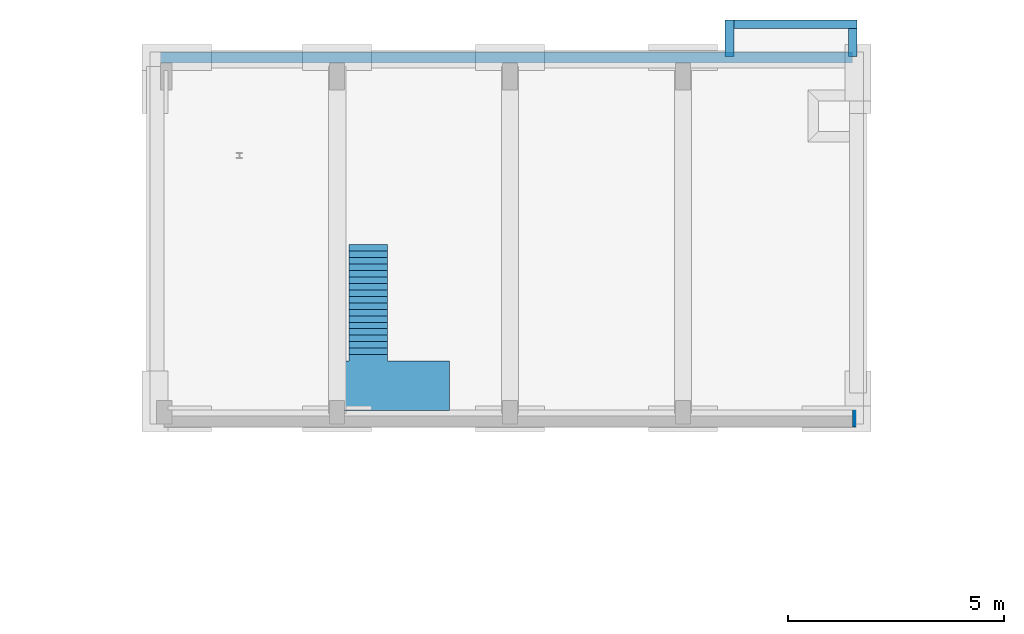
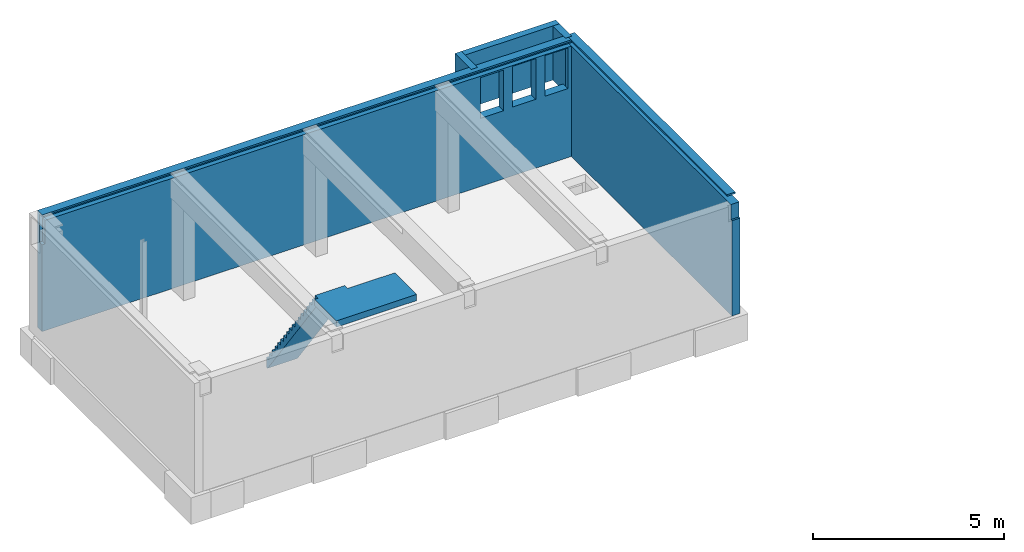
# One storey, part 4 of 5: 5 walls, 1 stair, 3 openings.
"""IFC2X3 building model written with IfcOpenShell, lengths in millimetres."""

from ifc_helpers import new_model, entity, si_unit, converted_unit, derived_unit, money_unit, direction, frame, origin_with_axes, place, context, subcontext, project, spatial, faceted_brep, material, material_list, type_object, element, save


model = new_model("IFC2X3")

# Units and contexts
model_context = context("Model", 3, precision=0.01, world=origin_with_axes(), true_north=direction((0.0, 1.0)))
body_context = subcontext(model_context, "Body", "Model", "MODEL_VIEW")
ifc_project = project(units=[si_unit("LENGTHUNIT", "METRE", prefix="MILLI"), si_unit("AREAUNIT", "SQUARE_METRE"), si_unit("VOLUMEUNIT", "CUBIC_METRE"), converted_unit("PLANEANGLEUNIT", "DEGREE", entity("IfcPlaneAngleMeasure", 0.0174532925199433), si_unit("PLANEANGLEUNIT", "RADIAN"), dimensions=[0, 0, 0, 0, 0, 0, 0]), money_unit("EUR"), converted_unit("TIMEUNIT", "Year", entity("IfcTimeMeasure", 31557600.0), si_unit("TIMEUNIT", "SECOND"), dimensions=[0, 0, 1, 0, 0, 0, 0]), si_unit("MASSUNIT", "GRAM", prefix="KILO"), si_unit("THERMODYNAMICTEMPERATUREUNIT", "DEGREE_CELSIUS"), si_unit("LUMINOUSINTENSITYUNIT", "LUMEN"), si_unit("ENERGYUNIT", "JOULE", prefix="MEGA"), derived_unit("THERMALCONDUCTANCEUNIT", [(si_unit("POWERUNIT", "WATT"), 1), (si_unit("LENGTHUNIT", "METRE"), -1), (si_unit("THERMODYNAMICTEMPERATUREUNIT", "KELVIN"), -1)]), derived_unit("SPECIFICHEATCAPACITYUNIT", [(si_unit("ENERGYUNIT", "JOULE"), 1), (si_unit("MASSUNIT", "GRAM", prefix="KILO"), -1), (si_unit("THERMODYNAMICTEMPERATUREUNIT", "KELVIN"), -1)]), derived_unit("MASSDENSITYUNIT", [(si_unit("MASSUNIT", "GRAM", prefix="KILO"), 1), (si_unit("VOLUMEUNIT", "CUBIC_METRE"), -1)])], contexts=[model_context])

# Site, building, storey
site_placement = place(None, origin_with_axes())
site = spatial("IfcSite", under=ifc_project, at=site_placement, Name="<site naam>", CompositionType="ELEMENT")
building_placement = place(site_placement, origin_with_axes())
building = spatial("IfcBuilding", under=site, at=building_placement, Name="<Naam gebouw>", CompositionType="ELEMENT")
storey_placement = place(building_placement, frame((0.0, 0.0, -3730.0), z_axis=(0.0, 0.0, 1.0), x_axis=(1.0, 0.0, 0.0)))
storey = spatial("IfcBuildingStorey", under=building, at=storey_placement, Name="Kelder", CompositionType="ELEMENT", Elevation=-3730.0)

# Walls
ifc_material_1 = material(Name="ALG - BUITENBLAD")
wall_type_1 = type_object("IfcWallType", Name="ALG - BUITENBLAD 200", PredefinedType="NOTDEFINED")
wall_1_placement = place(storey_placement, frame((25174.99999441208, 20875.00000000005, 2000.0), z_axis=(0.0, 0.0, 1.0), x_axis=(1.0, 0.0, 0.0)))
element("IfcWall", 1, at=wall_1_placement, inside=storey, type_object=wall_type_1, material=ifc_material_1, Name="21_Binnenwand_ALG", context=body_context, shape_type="Brep", body=[
    faceted_brep([(2849.999999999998, 0.0, 1730.0), (2849.999999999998, 199.9999999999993, 1730.0), (0.0, 199.9999999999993, 1730.0), (0.0, 0.0, 1730.0), (2849.999999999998, 0.0, 0.0), (2849.999999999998, 199.9999999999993, 0.0), (0.0, 199.9999999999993, 0.0), (0.0, 0.0, 0.0)], [[[0, 1, 2, 3]], [[1, 0, 4, 5]], [[1, 5, 6, 2]], [[7, 3, 2, 6]], [[4, 0, 3, 7]], [[5, 4, 7, 6]]]),
])
wall_2_placement = place(storey_placement, frame((25174.99999441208, 20225.00000000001, 2000.0), z_axis=(0.0, 0.0, 1.0), x_axis=(0.0, 1.0, 0.0)))
element("IfcWall", 2, at=wall_2_placement, inside=storey, type_object=wall_type_1, material=ifc_material_1, Name="21_Binnenwand_ALG", context=body_context, shape_type="Brep", body=[
    faceted_brep([(0.0, 0.0, 1730.0), (850.000000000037, 0.0, 1730.0), (850.000000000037, 199.9999999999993, 1730.0), (0.0, 199.9999999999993, 1730.0), (0.0, 0.0, 0.0), (850.000000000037, 0.0, 0.0), (850.000000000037, 199.9999999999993, 0.0), (0.0, 199.9999999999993, 0.0)], [[[0, 1, 2, 3]], [[4, 5, 1, 0]], [[6, 2, 1, 5]], [[3, 2, 6, 7]], [[7, 4, 0, 3]], [[7, 6, 5, 4]]]),
])
wall_3_placement = place(storey_placement, frame((27824.99999441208, 20875.00000000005, 2000.0), z_axis=(0.0, 0.0, 1.0), x_axis=(0.0, -1.0, 0.0)))
element("IfcWall", 3, at=wall_3_placement, inside=storey, type_object=wall_type_1, material=ifc_material_1, Name="21_Binnenwand_ALG", context=body_context, shape_type="Brep", body=[
    faceted_brep([(0.0, 199.9999999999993, 1730.0), (0.0, 0.0, 1730.0), (650.0000000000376, 0.0, 1730.0), (650.0000000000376, 199.9999999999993, 1730.0), (0.0, 199.9999999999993, 0.0), (0.0, 0.0, 0.0), (650.0000000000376, 0.0, 0.0), (650.0000000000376, 199.9999999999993, 0.0)], [[[0, 1, 2, 3]], [[4, 5, 1, 0]], [[1, 5, 6, 2]], [[7, 3, 2, 6]], [[4, 0, 3, 7]], [[5, 4, 7, 6]]]),
])

# Wall, openings
ifc_material_2 = material(Name="betonblok C")
wall_type_2 = type_object("IfcWallType", Name="betonblok C 250", PredefinedType="NOTDEFINED")
wall_4_placement = place(storey_placement, frame((27925.00000000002, 20085.00000000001, 0.0), z_axis=(0.0, 0.0, 1.0), x_axis=(-1.0, 0.0, 0.0)))
wall_4 = element("IfcWall", 4, at=wall_4_placement, inside=storey, type_object=wall_type_2, material=ifc_material_2, Name="22_Binnenwand_betonblok", context=body_context, shape_type="Brep", body=[
    faceted_brep([(16009.99999999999, -140.0065623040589, 3680.0), (16009.99999999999, -140.0000000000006, 2780.0), (15924.99999999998, -140.0000000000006, 2780.0), (15924.99999999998, -140.0000000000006, 3530.0), (0.0, -140.0065623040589, 3530.0), (0.0, -140.0065623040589, 3680.0), (16009.99999999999, 0.0, 2780.0), (16009.99999999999, 0.0, 3680.0), (16009.99999999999, 0.0, 3730.0), (16009.99999999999, -250.0, 3730.0), (16009.99999999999, -250.0, 0.0), (16009.99999999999, 0.0, 0.0), (15924.99999999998, 0.0, 2780.0), (15924.99999999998, 0.0, 3530.0), (0.0, 0.0, 3530.0), (0.0, 0.0, 3680.0), (0.0, 0.0, 0.0), (0.0, -250.0, 0.0), (0.0, -250.0, 3730.0), (0.0, 0.0, 3730.0)], [[[0, 1, 2, 3, 4, 5]], [[6, 1, 0, 7, 8, 9, 10, 11]], [[1, 6, 12, 2]], [[12, 13, 3, 2]], [[4, 3, 13, 14]], [[15, 5, 4, 14, 16, 17, 18, 19]], [[7, 0, 5, 15]], [[19, 8, 7, 15]], [[19, 18, 9, 8]], [[18, 17, 10, 9]], [[17, 16, 11, 10]], [[13, 12, 6, 11, 16, 14]]]),
])
opening_1_placement = place(wall_4_placement, frame((27925.00000000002, 20085.00000000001, 3730.0), z_axis=(0.0, 0.0, 1.0), x_axis=(-1.0, 0.0, 0.0)))
element("IfcOpeningElement", 5, at=opening_1_placement, cuts=wall_4, Name="22_Opening_", context=body_context, shape_type="Brep", body=[
    faceted_brep([(27824.99999441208, 20585.00000000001, -1526.059116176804), (27824.99999441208, 20585.00000000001, -226.0591161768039), (27824.99999441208, 19835.00000000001, -226.0591161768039), (27824.99999441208, 19835.00000000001, -1526.059116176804), (27124.99999441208, 20585.00000000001, -1526.059116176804), (27124.99999441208, 20585.00000000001, -226.0591161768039), (27124.99999441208, 19835.00000000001, -226.0591161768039), (27124.99999441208, 19835.00000000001, -1526.059116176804)], [[[0, 1, 2, 3]], [[0, 4, 5, 1]], [[1, 5, 6, 2]], [[3, 2, 6, 7]], [[4, 0, 3, 7]], [[5, 4, 7, 6]]]),
])
opening_2_placement = place(wall_4_placement, frame((27925.00000000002, 20085.00000000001, 3730.0), z_axis=(0.0, 0.0, 1.0), x_axis=(-1.0, 0.0, 0.0)))
element("IfcOpeningElement", 6, at=opening_2_placement, cuts=wall_4, Name="22_Opening_", context=body_context, shape_type="Brep", body=[
    faceted_brep([(26850.00005126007, 20585.00000000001, -1526.059116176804), (26850.00005126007, 20585.00000000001, -226.0591161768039), (26850.00005126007, 19835.00000000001, -226.0591161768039), (26850.00005126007, 19835.00000000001, -1526.059116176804), (26150.00005126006, 20585.00000000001, -1526.059116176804), (26150.00005126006, 20585.00000000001, -226.0591161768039), (26150.00005126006, 19835.00000000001, -226.0591161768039), (26150.00005126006, 19835.00000000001, -1526.059116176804)], [[[0, 1, 2, 3]], [[0, 4, 5, 1]], [[1, 5, 6, 2]], [[3, 2, 6, 7]], [[4, 0, 3, 7]], [[5, 4, 7, 6]]]),
])
opening_3_placement = place(wall_4_placement, frame((27925.00000000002, 20085.00000000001, 3730.0), z_axis=(0.0, 0.0, 1.0), x_axis=(-1.0, 0.0, 0.0)))
element("IfcOpeningElement", 7, at=opening_3_placement, cuts=wall_4, Name="22_Opening_", context=body_context, shape_type="Brep", body=[
    faceted_brep([(25875.00009775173, 20585.00000000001, -1550.0), (25875.00009775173, 20585.00000000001, -249.9999999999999), (25875.00009775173, 19835.00000000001, -249.9999999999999), (25875.00009775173, 19835.00000000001, -1550.0), (25175.00009775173, 20585.00000000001, -1550.0), (25175.00009775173, 20585.00000000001, -249.9999999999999), (25175.00009775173, 19835.00000000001, -249.9999999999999), (25175.00009775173, 19835.00000000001, -1550.0)], [[[0, 1, 2, 3]], [[0, 4, 5, 1]], [[1, 5, 6, 2]], [[3, 2, 6, 7]], [[4, 0, 3, 7]], [[5, 4, 7, 6]]]),
])

# Wall
wall_5_placement = place(storey_placement, frame((27925.00000000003, 11915.00000000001, 0.0), z_axis=(0.0, 0.0, 1.0), x_axis=(0.0, 1.0, 0.0)))
element("IfcWall", 8, at=wall_5_placement, inside=storey, type_object=wall_type_2, material=ifc_material_2, Name="22_Binnenwand_betonblok", context=body_context, shape_type="Brep", body=[
    faceted_brep([(8310.006562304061, 0.0, 3530.0), (-190.002385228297, 0.0, 3530.0), (-189.994437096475, -250.0, 3530.0), (8310.006562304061, -250.0000000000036, 3530.0), (-250.0, 0.0, 3050.0), (-190.002385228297, 0.0, 3050.0), (8310.006562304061, 0.0, 3680.0), (0.0, 0.0, 3680.0), (0.0, 0.0, 3730.0), (8420.000000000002, 0.0, 3730.0), (8420.000000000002, 0.0, 0.0), (-250.0, 0.0, 0.0), (-189.994437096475, -249.9999999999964, 3050.0), (-250.0, -250.0, 3050.0), (-250.0, -250.0, 0.0), (8420.000000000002, -250.0000000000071, 0.0), (8420.000000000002, -250.0000000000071, 3730.0), (0.0, -250.0, 3730.0), (0.0, -250.0, 3680.0), (8310.006562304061, -250.0000000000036, 3680.0)], [[[0, 1, 2, 3]], [[4, 5, 1, 0, 6, 7, 8, 9, 10, 11]], [[5, 12, 2, 1]], [[2, 12, 13, 14, 15, 16, 17, 18, 19, 3]], [[6, 0, 3, 19]], [[4, 13, 12, 5]], [[7, 6, 19, 18]], [[17, 8, 7, 18]], [[17, 16, 9, 8]], [[16, 15, 10, 9]], [[11, 10, 15, 14]], [[14, 13, 4, 11]]]),
])

# Stair
ifc_material_3 = material(Name="beton")
ifc_material_list = material_list([ifc_material_3, ifc_material_3])
stair_placement = place(storey_placement, frame((18182.98174922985, 12283.47801856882, 0.0), z_axis=(0.0, 0.0, 1.0), x_axis=(1.0, 0.0, 0.0)))
element("IfcStair", 9, at=stair_placement, inside=storey, material=ifc_material_list, Name="24_Trap_", ShapeType="NOTDEFINED", context=body_context, shape_type="Brep", body=[
    faceted_brep([(-1912.669026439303, 1049.123238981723, 3522.777777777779), (-1012.669030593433, 1049.123238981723, 3522.777777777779), (-1012.66902009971, 1199.12323672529, 3522.777777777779), (-1912.669020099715, 1199.12323672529, 3522.777777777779), (-1912.669026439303, 1049.123238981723, 3530.000000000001), (-1012.669030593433, 1049.123238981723, 3530.000000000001), (-1012.669030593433, 1049.123238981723, 3318.126191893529), (-1012.66902009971, 1124.12323672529, 3214.515080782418), (-1012.66902009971, 1199.12323672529, 3110.903969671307), (-1012.66902009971, 1274.12323672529, 3007.292858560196), (-1012.66902009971, 1349.12323672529, 2903.681747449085), (-1012.66902009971, 1424.12323672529, 2800.070636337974), (-1012.66902009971, 1499.12323672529, 2696.459525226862), (-1012.66902009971, 1574.12323672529, 2592.848414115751), (-1012.66902009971, 1649.12323672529, 2489.23730300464), (-1012.66902009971, 1724.12323672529, 2385.626191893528), (-1012.66902009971, 1799.12323672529, 2282.015080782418), (-1012.66902009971, 1874.12323672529, 2178.403969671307), (-1012.66902009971, 1949.12323672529, 2074.792858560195), (-1012.66902009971, 2024.12323672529, 1971.181747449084), (-1012.66902009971, 2099.12323672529, 1867.570636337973), (-1012.66902009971, 2174.12323672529, 1763.959525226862), (-1012.66902009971, 2249.12323672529, 1660.348414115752), (-1012.66902009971, 2324.12323672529, 1556.73730300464), (-1012.66902009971, 2399.12323672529, 1453.126191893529), (-1012.66902009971, 2474.12323672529, 1349.515080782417), (-1012.66902009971, 2549.12323672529, 1245.903969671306), (-1012.66902009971, 2624.12323672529, 1142.292858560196), (-1012.66902009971, 2699.12323672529, 1038.681747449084), (-1012.66902009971, 2774.123236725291, 935.0706363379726), (-1012.66902009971, 2849.123236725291, 831.4595252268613), (-1012.66902009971, 2924.12323672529, 727.8484141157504), (-1012.66902009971, 2999.12323672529, 624.2373030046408), (-1012.66902009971, 3074.12323672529, 520.6261918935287), (-1012.66902009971, 3149.123236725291, 417.0150807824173), (-1012.66902009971, 3224.12323672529, 313.4039696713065), (-1012.66902009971, 3299.12323672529, 209.7928585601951), (-1012.66902009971, 3374.12323672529, 106.1817474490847), (-1012.66902009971, 3449.12323672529, 2.570636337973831), (-1012.66902009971, 3523.370078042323, -100.0000000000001), (-1012.66902009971, 3599.123236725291, -100.0000000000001), (-1012.66902009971, 3599.123236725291, 207.2222222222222), (-1012.66902009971, 3449.12323672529, 207.2222222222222), (-1012.66902009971, 3449.12323672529, 414.4444444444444), (-1012.66902009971, 3299.12323672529, 414.4444444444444), (-1012.66902009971, 3299.12323672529, 621.6666666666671), (-1012.66902009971, 3149.123236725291, 621.6666666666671), (-1012.66902009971, 3149.123236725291, 828.8888888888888), (-1012.66902009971, 2999.12323672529, 828.8888888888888), (-1012.66902009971, 2999.12323672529, 1036.111111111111), (-1012.66902009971, 2849.123236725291, 1036.111111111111), (-1012.66902009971, 2849.123236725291, 1243.333333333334), (-1012.66902009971, 2699.12323672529, 1243.333333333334), (-1012.66902009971, 2699.12323672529, 1450.555555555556), (-1012.66902009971, 2549.12323672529, 1450.555555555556), (-1012.66902009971, 2549.12323672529, 1657.777777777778), (-1012.66902009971, 2399.12323672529, 1657.777777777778), (-1012.66902009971, 2399.12323672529, 1865.0), (-1012.66902009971, 2249.12323672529, 1865.0), (-1012.66902009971, 2249.12323672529, 2072.222222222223), (-1012.66902009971, 2099.12323672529, 2072.222222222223), (-1012.66902009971, 2099.12323672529, 2279.444444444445), (-1012.66902009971, 1949.12323672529, 2279.444444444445), (-1012.66902009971, 1949.12323672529, 2486.666666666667), (-1012.66902009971, 1799.12323672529, 2486.666666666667), (-1012.66902009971, 1799.12323672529, 2693.88888888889), (-1012.66902009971, 1649.12323672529, 2693.88888888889), (-1012.66902009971, 1649.12323672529, 2901.111111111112), (-1012.66902009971, 1499.12323672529, 2901.111111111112), (-1012.66902009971, 1499.12323672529, 3108.333333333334), (-1012.66902009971, 1349.12323672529, 3108.333333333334), (-1012.66902009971, 1349.12323672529, 3315.555555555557), (-1012.66902009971, 1199.12323672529, 3315.555555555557), (-1012.669030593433, 895.7561535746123, 3530.000000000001), (-1912.669020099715, 1199.12323672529, 3315.555555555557), (-1912.669020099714, 1349.12323672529, 3315.555555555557), (-1912.669020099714, 1349.12323672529, 3108.333333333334), (-1912.669020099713, 1499.12323672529, 3108.333333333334), (-1912.669020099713, 1499.12323672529, 2901.111111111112), (-1912.669020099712, 1649.12323672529, 2901.111111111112), (-1912.669020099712, 1649.12323672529, 2693.88888888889), (-1912.669020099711, 1799.12323672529, 2693.88888888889), (-1912.669020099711, 1799.12323672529, 2486.666666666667), (-1912.66902009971, 1949.12323672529, 2486.666666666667), (-1912.66902009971, 1949.12323672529, 2279.444444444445), (-1912.66902009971, 2099.12323672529, 2279.444444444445), (-1912.66902009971, 2099.12323672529, 2072.222222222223), (-1912.66902009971, 2249.12323672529, 2072.222222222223), (-1912.66902009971, 2249.12323672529, 1865.0), (-1912.66902009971, 2399.12323672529, 1865.0), (-1912.66902009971, 2399.12323672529, 1657.777777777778), (-1912.66902009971, 2549.12323672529, 1657.777777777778), (-1912.66902009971, 2549.12323672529, 1450.555555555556), (-1912.66902009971, 2699.12323672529, 1450.555555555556), (-1912.66902009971, 2699.12323672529, 1243.333333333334), (-1912.66902009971, 2849.123236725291, 1243.333333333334), (-1912.66902009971, 2849.123236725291, 1036.111111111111), (-1912.66902009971, 2999.12323672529, 1036.111111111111), (-1912.66902009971, 2999.12323672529, 828.8888888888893), (-1912.66902009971, 3149.123236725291, 828.8888888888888), (-1912.66902009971, 3149.123236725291, 621.6666666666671), (-1912.66902009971, 3299.12323672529, 621.6666666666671), (-1912.66902009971, 3299.12323672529, 414.4444444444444), (-1912.66902009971, 3449.12323672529, 414.4444444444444), (-1912.66902009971, 3449.12323672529, 207.2222222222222), (-1912.66902009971, 3599.123236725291, 207.2222222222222), (-1912.66902009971, 3599.123236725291, -100.0000000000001), (-1912.66902009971, 3523.370078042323, -100.0000000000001), (-1912.66902009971, 3449.12323672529, 2.570636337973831), (-1912.66902009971, 3374.12323672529, 106.1817474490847), (-1912.66902009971, 3299.12323672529, 209.7928585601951), (-1912.66902009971, 3224.12323672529, 313.4039696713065), (-1912.66902009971, 3149.123236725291, 417.0150807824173), (-1912.66902009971, 3074.12323672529, 520.6261918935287), (-1912.66902009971, 2999.12323672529, 624.2373030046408), (-1912.66902009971, 2924.12323672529, 727.8484141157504), (-1912.66902009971, 2849.123236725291, 831.4595252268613), (-1912.66902009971, 2774.123236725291, 935.0706363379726), (-1912.66902009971, 2699.12323672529, 1038.681747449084), (-1912.66902009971, 2624.12323672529, 1142.292858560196), (-1912.66902009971, 2549.12323672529, 1245.903969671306), (-1912.66902009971, 2474.12323672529, 1349.515080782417), (-1912.66902009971, 2399.12323672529, 1453.126191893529), (-1912.66902009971, 2324.12323672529, 1556.73730300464), (-1912.66902009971, 2249.12323672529, 1660.348414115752), (-1912.66902009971, 2174.12323672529, 1763.959525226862), (-1912.66902009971, 2099.12323672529, 1867.570636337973), (-1912.66902009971, 2024.12323672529, 1971.181747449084), (-1912.66902009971, 1949.12323672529, 2074.792858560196), (-1912.66902009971, 1874.12323672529, 2178.403969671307), (-1912.669020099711, 1799.12323672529, 2282.015080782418), (-1912.669020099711, 1724.12323672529, 2385.626191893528), (-1912.669020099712, 1649.12323672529, 2489.23730300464), (-1912.669020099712, 1574.12323672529, 2592.848414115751), (-1912.669020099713, 1499.12323672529, 2696.459525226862), (-1912.669020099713, 1424.12323672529, 2800.070636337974), (-1912.669020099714, 1349.12323672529, 2903.681747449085), (-1912.669020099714, 1274.12323672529, 3007.292858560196), (-1912.669020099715, 1199.12323672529, 3110.903969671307), (-1912.669020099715, 1124.12323672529, 3214.515080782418), (-1912.669026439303, 1049.123238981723, 3318.126191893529), (-1912.669026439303, 895.7561535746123, 3530.000000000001)], [[[0, 1, 2, 3]], [[1, 0, 4, 5]], [[6, 7, 8, 9, 10, 11, 12, 13, 14, 15, 16, 17, 18, 19, 20, 21, 22, 23, 24, 25, 26, 27, 28, 29, 30, 31, 32, 33, 34, 35, 36, 37, 38, 39, 40, 41, 42, 43, 44, 45, 46, 47, 48, 49, 50, 51, 52, 53, 54, 55, 56, 57, 58, 59, 60, 61, 62, 63, 64, 65, 66, 67, 68, 69, 70, 71, 72, 2, 1, 5, 73]], [[3, 2, 72, 74]], [[0, 3, 74, 75, 76, 77, 78, 79, 80, 81, 82, 83, 84, 85, 86, 87, 88, 89, 90, 91, 92, 93, 94, 95, 96, 97, 98, 99, 100, 101, 102, 103, 104, 105, 106, 107, 108, 109, 110, 111, 112, 113, 114, 115, 116, 117, 118, 119, 120, 121, 122, 123, 124, 125, 126, 127, 128, 129, 130, 131, 132, 133, 134, 135, 136, 137, 138, 139, 140, 141, 4]], [[5, 4, 141, 73]], [[140, 139, 7, 6, 73, 141]], [[138, 8, 7, 139]], [[137, 9, 8, 138]], [[136, 10, 9, 137]], [[135, 11, 10, 136]], [[134, 12, 11, 135]], [[133, 13, 12, 134]], [[132, 14, 13, 133]], [[131, 15, 14, 132]], [[130, 16, 15, 131]], [[129, 17, 16, 130]], [[128, 18, 17, 129]], [[127, 19, 18, 128]], [[126, 20, 19, 127]], [[125, 21, 20, 126]], [[124, 22, 21, 125]], [[123, 23, 22, 124]], [[122, 24, 23, 123]], [[121, 25, 24, 122]], [[120, 26, 25, 121]], [[119, 27, 26, 120]], [[118, 28, 27, 119]], [[117, 29, 28, 118]], [[116, 30, 29, 117]], [[115, 31, 30, 116]], [[114, 32, 31, 115]], [[113, 33, 32, 114]], [[112, 34, 33, 113]], [[111, 35, 34, 112]], [[110, 36, 35, 111]], [[109, 37, 36, 110]], [[108, 38, 37, 109]], [[107, 39, 38, 108]], [[106, 40, 39, 107]], [[40, 106, 105, 41]], [[41, 105, 104, 42]], [[103, 43, 42, 104]], [[43, 103, 102, 44]], [[101, 45, 44, 102]], [[45, 101, 100, 46]], [[99, 47, 46, 100]], [[47, 99, 98, 48]], [[97, 49, 48, 98]], [[49, 97, 96, 50]], [[95, 51, 50, 96]], [[51, 95, 94, 52]], [[93, 53, 52, 94]], [[53, 93, 92, 54]], [[91, 55, 54, 92]], [[55, 91, 90, 56]], [[89, 57, 56, 90]], [[57, 89, 88, 58]], [[87, 59, 58, 88]], [[59, 87, 86, 60]], [[85, 61, 60, 86]], [[61, 85, 84, 62]], [[83, 63, 62, 84]], [[63, 83, 82, 64]], [[81, 65, 64, 82]], [[65, 81, 80, 66]], [[79, 67, 66, 80]], [[67, 79, 78, 68]], [[77, 69, 68, 78]], [[69, 77, 76, 70]], [[75, 71, 70, 76]], [[71, 75, 74, 72]]]),
    faceted_brep([(-1012.669020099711, 1049.12323672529, 3530.000000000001), (-1912.669020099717, 1049.12323672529, 3530.000000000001), (-1912.669020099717, 1049.12323672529, 3730.000000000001), (-1012.669020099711, 1049.12323672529, 3730.000000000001), (-1012.669020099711, 900.0000000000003, 3530.000000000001), (417.1467703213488, 900.0000000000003, 3530.000000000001), (417.1467703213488, 0.0, 3530.000000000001), (417.1467703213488, -241.6730213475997, 3530.000000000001), (-2008.061573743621, -241.6730213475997, 3530.000000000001), (-2008.061573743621, 899.9270330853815, 3530.000000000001), (-1912.669020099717, 899.9270330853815, 3530.000000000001), (-1912.669020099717, 899.9270330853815, 3730.000000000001), (-2008.061573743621, 899.9270330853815, 3730.000000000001), (-2008.061573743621, -241.6730213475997, 3730.000000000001), (417.1467703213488, -241.6730213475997, 3730.000000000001), (417.1467703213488, 0.0, 3730.000000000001), (417.1467703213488, 900.0000000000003, 3730.000000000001), (-1012.669020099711, 900.0000000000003, 3730.000000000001)], [[[0, 1, 2, 3]], [[0, 4, 5, 6, 7, 8, 9, 10, 1]], [[1, 10, 11, 2]], [[3, 2, 11, 12, 13, 14, 15, 16, 17]], [[4, 0, 3, 17]], [[5, 4, 17, 16]], [[6, 5, 16, 15]], [[7, 6, 15, 14]], [[8, 7, 14, 13]], [[9, 8, 13, 12]], [[10, 9, 12, 11]]]),
])

save(model, "model.ifc")
